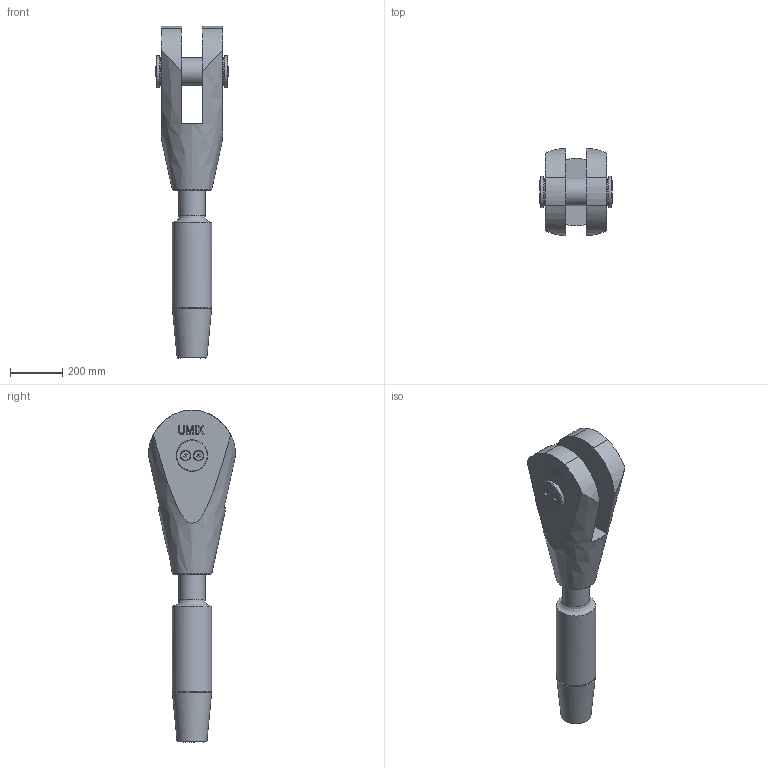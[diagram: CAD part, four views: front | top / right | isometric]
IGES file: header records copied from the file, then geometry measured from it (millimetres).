
Global section: file name: 520-100-GAK-ADA; native system: Autodesk Inventor 2016; preprocessor: unknown; author: Administrator; date: 20200703.131535; units: centimetre
Bounding box: 275 x 333.1 x 1266.94 mm (x, y, z)
Volume: 32095519.8 mm3; surface area: 1201612.9 mm2
Topology: 3 solids, 10 shells, 247 faces, 652 edges, 439 vertices
Faces by surface type: bspline 247
